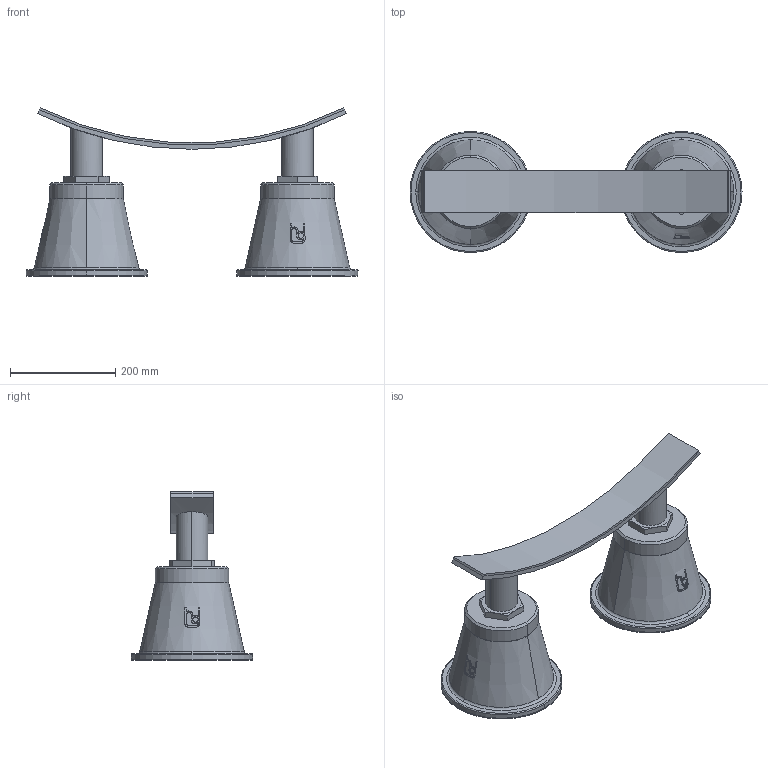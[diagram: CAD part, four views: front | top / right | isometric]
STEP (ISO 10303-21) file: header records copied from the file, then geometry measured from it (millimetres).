
FILE_DESCRIPTION(('STEP AP214'),'1');
FILE_NAME('RSRFN-DUO_DN1300.stp','2018-06-29T13:53:24',(' '),(' '),'Spatial InterOp 3D',' ',' ');
FILE_SCHEMA(('automotive_design'));
Length unit declared in the file: millimetre
Products named in the file (10): 1; 2; 3; 4; 5; 6; 7; 8; 9; 10
Bounding box: 630 x 230 x 319.31 mm (x, y, z)
Volume: 10193886.9 mm3; surface area: 882956.4 mm2
Topology: 10 solids, 11 shells, 205 faces, 497 edges, 324 vertices
Faces by surface type: cylinder 82, plane 81, cone 34, torus 8
Entity records: 9114 total; most frequent: CARTESIAN_POINT 2472, DIRECTION 1017, ORIENTED_EDGE 994, EDGE_CURVE 497, AXIS2_PLACEMENT_3D 397, VERTEX_POINT 324, LINE 223, VECTOR 223
